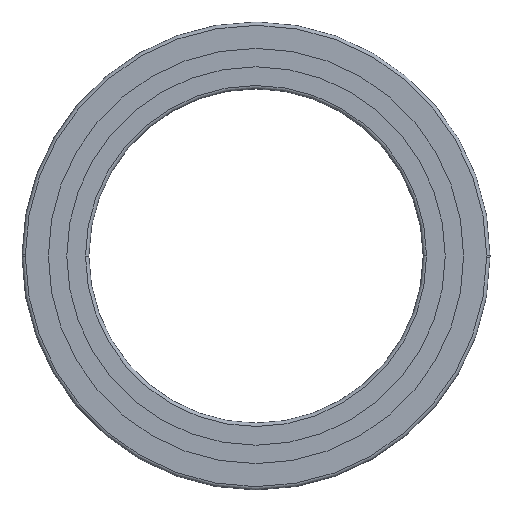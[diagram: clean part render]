
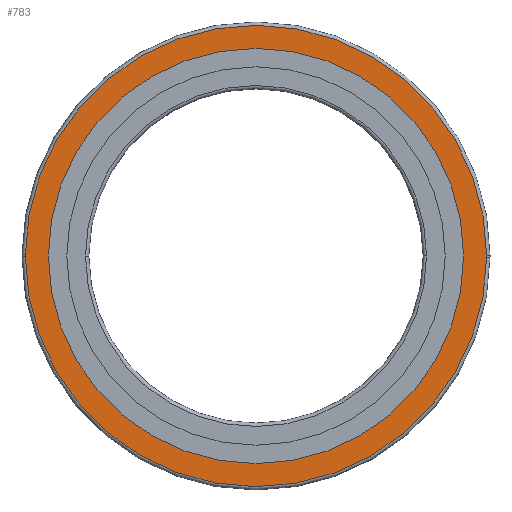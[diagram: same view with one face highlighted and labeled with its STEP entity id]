
A CAD part, front view. The second image highlights one B-rep face of the part: STEP entity #783.
In plain terms, the highlighted planar face has unit normal (0, -1, 0).
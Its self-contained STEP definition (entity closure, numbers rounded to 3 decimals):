
#317=VERTEX_POINT('',#855);
#349=VERTEX_POINT('',#890);
#389=EDGE_CURVE('',#399,#547,#934,.T.);
#399=VERTEX_POINT('',#944);
#421=EDGE_CURVE('',#349,#807,#970,.T.);
#423=EDGE_CURVE('',#317,#399,#972,.T.);
#463=EDGE_CURVE('',#807,#349,#1013,.T.);
#477=EDGE_CURVE('',#547,#789,#1028,.T.);
#547=VERTEX_POINT('',#1111);
#713=EDGE_CURVE('',#789,#317,#1297,.T.);
#783=ADVANCED_FACE('',(#1378,#1379),#1380,.F.);
#789=VERTEX_POINT('',#1386);
#807=VERTEX_POINT('',#1407);
#855=CARTESIAN_POINT('',(-68.999,0.0,0.427));
#890=CARTESIAN_POINT('',(62.1,0.0,0.0));
#934=CIRCLE('',#1556,69.0);
#944=CARTESIAN_POINT('',(-69.0,0.0,0.0));
#970=CIRCLE('',#1597,62.1);
#972=CIRCLE('',#1600,69.0);
#1013=CIRCLE('',#1657,62.1);
#1028=CIRCLE('',#1678,69.0);
#1111=CARTESIAN_POINT('',(68.999,0.0,-0.427));
#1297=CIRCLE('',#2006,69.0);
#1378=FACE_OUTER_BOUND('',#2105,.T.);
#1379=FACE_BOUND('',#2106,.T.);
#1380=PLANE('',#2107);
#1386=CARTESIAN_POINT('',(69.0,0.0,0.0));
#1407=CARTESIAN_POINT('',(-62.1,0.0,0.0));
#1556=AXIS2_PLACEMENT_3D('',#2258,#2259,#2260);
#1597=AXIS2_PLACEMENT_3D('',#2307,#2308,#2309);
#1600=AXIS2_PLACEMENT_3D('',#2310,#2311,#2312);
#1657=AXIS2_PLACEMENT_3D('',#2351,#2352,#2353);
#1678=AXIS2_PLACEMENT_3D('',#2372,#2373,#2374);
#2006=AXIS2_PLACEMENT_3D('',#2761,#2762,#2763);
#2105=EDGE_LOOP('',(#2881,#2882,#2883,#2884));
#2106=EDGE_LOOP('',(#2885,#2886));
#2107=AXIS2_PLACEMENT_3D('',#2887,#2888,#2889);
#2258=CARTESIAN_POINT('',(0.0,0.0,0.0));
#2259=DIRECTION('',(0.0,-1.0,0.0));
#2260=DIRECTION('',(-1.0,0.0,0.0));
#2307=CARTESIAN_POINT('',(0.0,0.0,0.0));
#2308=DIRECTION('',(0.0,-1.0,0.0));
#2309=DIRECTION('',(1.0,0.0,0.0));
#2310=CARTESIAN_POINT('',(0.0,0.0,0.0));
#2311=DIRECTION('',(0.0,-1.0,0.0));
#2312=DIRECTION('',(1.0,0.0,0.0));
#2351=CARTESIAN_POINT('',(0.0,0.0,0.0));
#2352=DIRECTION('',(0.0,-1.0,0.0));
#2353=DIRECTION('',(-1.0,0.0,0.0));
#2372=CARTESIAN_POINT('',(0.0,0.0,0.0));
#2373=DIRECTION('',(0.0,-1.0,0.0));
#2374=DIRECTION('',(-1.0,0.0,0.0));
#2761=CARTESIAN_POINT('',(0.0,0.0,0.0));
#2762=DIRECTION('',(0.0,-1.0,0.0));
#2763=DIRECTION('',(1.0,0.0,0.0));
#2881=ORIENTED_EDGE('',*,*,#389,.T.);
#2882=ORIENTED_EDGE('',*,*,#477,.T.);
#2883=ORIENTED_EDGE('',*,*,#713,.T.);
#2884=ORIENTED_EDGE('',*,*,#423,.T.);
#2885=ORIENTED_EDGE('',*,*,#463,.F.);
#2886=ORIENTED_EDGE('',*,*,#421,.F.);
#2887=CARTESIAN_POINT('',(0.0,0.0,0.0));
#2888=DIRECTION('',(0.0,1.0,0.0));
#2889=DIRECTION('',(1.0,0.0,-0.0));
